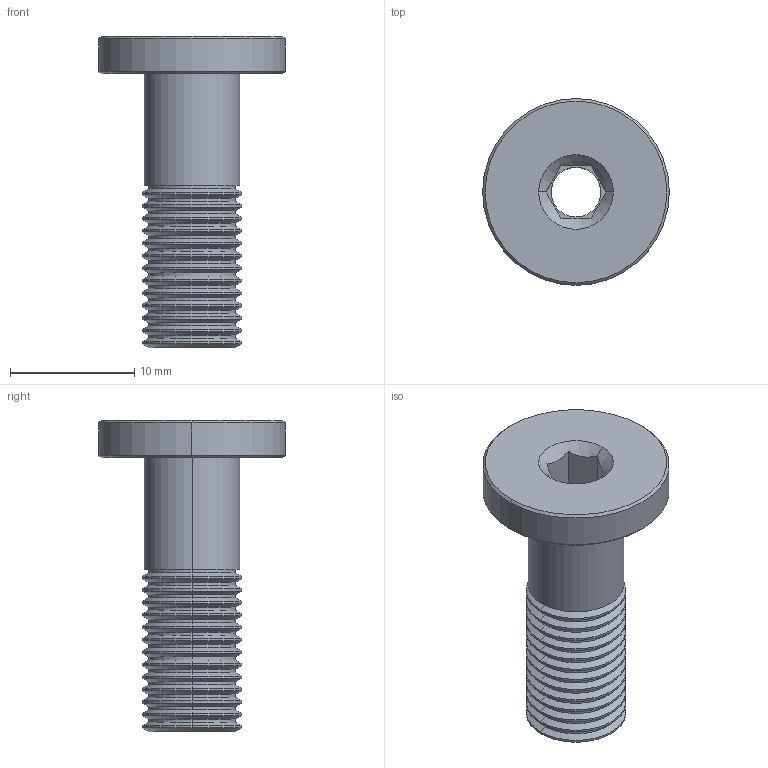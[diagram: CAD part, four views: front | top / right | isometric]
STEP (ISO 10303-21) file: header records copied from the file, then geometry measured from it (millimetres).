
FILE_DESCRIPTION (( 'STEP AP214' ), '1' );
FILE_NAME ('VM-08-M8.STEP', '2023-03-06T01:53:20', ( 'Windows User' ), ( 'P R C' ), 'SwSTEP 2.0', 'SolidWorks 2019', '' );
FILE_SCHEMA (( 'AUTOMOTIVE_DESIGN' ));
Length unit declared in the file: millimetre
Products named in the file (1): VM-08-M8
Bounding box: 15 x 15 x 25 mm (x, y, z)
Volume: 1187.1 mm3; surface area: 1473.2 mm2
Topology: 1 solids, 1 shells, 127 faces, 258 edges, 136 vertices
Faces by surface type: cone 58, cylinder 58, plane 11
Entity records: 3320 total; most frequent: DIRECTION 632, CARTESIAN_POINT 584, ORIENTED_EDGE 516, EDGE_CURVE 258, AXIS2_PLACEMENT_3D 252, VERTEX_POINT 136, EDGE_LOOP 132, LINE 128
